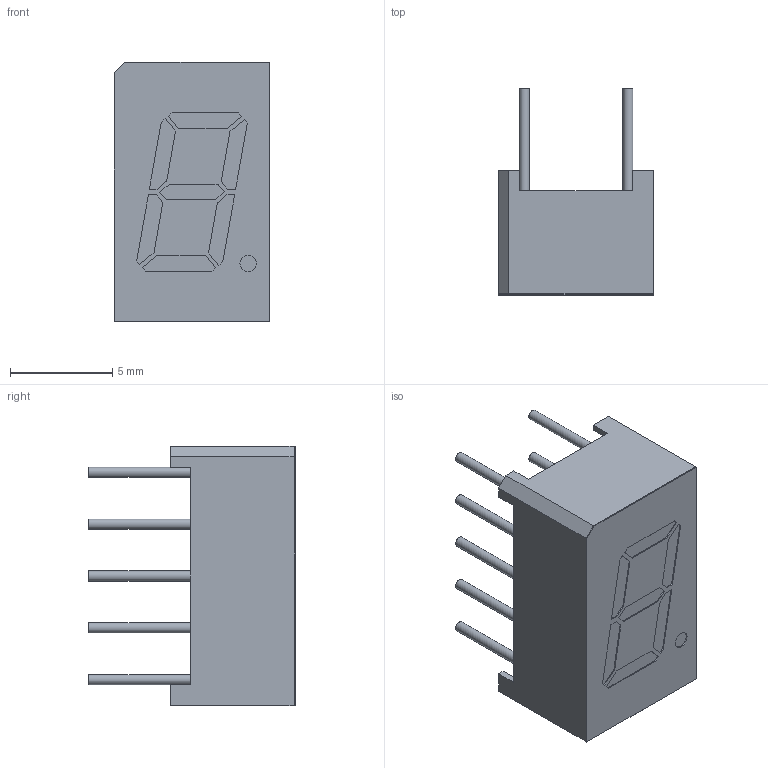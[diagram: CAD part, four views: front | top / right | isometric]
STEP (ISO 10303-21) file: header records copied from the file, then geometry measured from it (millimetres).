
FILE_DESCRIPTION(/* description */ ('STEP AP242','CAx-IF Rec.Pracs.---Representation and Presentation of Product Manufacturing Information (PMI)---4.0---2014-10-13','CAx-IF Rec.Pracs.---3D Tessellated Geometry---0.4---2014-09-14','2;1'),/* implementation_level */ '2;1');
FILE_NAME(/* name */ '656a3a6ad1cae84eec2cae70',/* time_stamp */ '2023-12-01T19:56:27Z',/* author */ (''),/* organization */ (''),/* preprocessor_version */ 'ST-DEVELOPER v19.4',/* originating_system */ ' ',/* authorisation */ ' ');
FILE_SCHEMA (('AP242_MANAGED_MODEL_BASED_3D_ENGINEERING_MIM_LF { 1 0 10303 442 1 1 4 }'));
Length unit declared in the file: metre
Products named in the file (22): QBSLDXX30ZGR; segment8; segment7; pcb assy + fill; segment2; overlay; segment3; pin9; pin2; pin5; pin4; segment1; segment5; frame; pin1; pin3; pin6; pin7; pin8; segment6; segment4; pin10
Assembly tree (21 placements, depth 2):
  QBSLDXX30ZGR
    segment8
    segment7
    pcb assy + fill
    segment2
    overlay
    segment3
    pin9
    pin2
    pin5
    pin4
    segment1
    segment5
    frame
    pin1
    pin3
    pin6
    pin7
    pin8
    segment6
    segment4
    pin10
Bounding box: 7.6 x 10.1 x 12.7 mm (x, y, z)
Volume: 486.1 mm3; surface area: 1217 mm2
Topology: 21 solids, 21 shells, 274 faces, 679 edges, 453 vertices
Faces by surface type: plane 232, bspline 29, cylinder 13
Full cylindrical faces by diameter (mm): 0.5 x10, 0.8 x3
Entity records: 8647 total; most frequent: CARTESIAN_POINT 1732, ORIENTED_EDGE 1330, DIRECTION 1167, EDGE_CURVE 665, LINE 581, VECTOR 581, VERTEX_POINT 452, EDGE_LOOP 325
